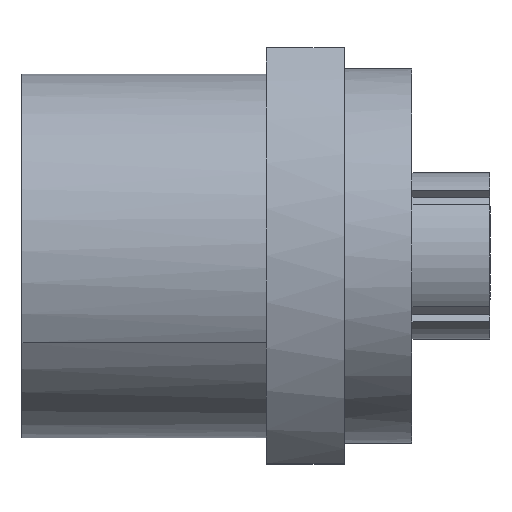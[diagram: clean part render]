
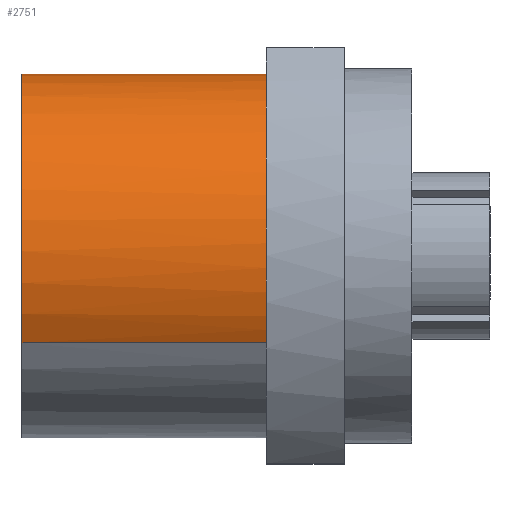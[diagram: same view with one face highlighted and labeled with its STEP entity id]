
A CAD part, top view. The second image highlights one B-rep face of the part: STEP entity #2751.
In plain terms, the highlighted cylindrical face has radius 35 mm (diameter 70 mm), a partial arc.
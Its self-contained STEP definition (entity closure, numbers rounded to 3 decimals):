
#1862=CARTESIAN_POINT('Control Point',(-15.,16.78,-30.715)) ;
#1863=CARTESIAN_POINT('Control Point',(-15.,19.578,-29.187)) ;
#1864=CARTESIAN_POINT('Control Point',(-15.,22.201,-27.34)) ;
#1865=CARTESIAN_POINT('Control Point',(-15.,24.603,-25.201)) ;
#1866=CARTESIAN_POINT('Control Point',(-15.,28.876,-20.413)) ;
#1867=CARTESIAN_POINT('Control Point',(-15.,31.964,-14.788)) ;
#1868=CARTESIAN_POINT('Control Point',(-15.,33.18,-11.81)) ;
#1869=CARTESIAN_POINT('Control Point',(-15.,34.912,-5.631)) ;
#1870=CARTESIAN_POINT('Control Point',(-15.,35.21,0.78)) ;
#1871=CARTESIAN_POINT('Control Point',(-15.,34.992,3.988)) ;
#1872=CARTESIAN_POINT('Control Point',(-15.,33.83,10.299)) ;
#1873=CARTESIAN_POINT('Control Point',(-15.,31.278,16.188)) ;
#1874=CARTESIAN_POINT('Control Point',(-15.,29.671,18.974)) ;
#1875=CARTESIAN_POINT('Control Point',(-15.,25.851,24.13)) ;
#1876=CARTESIAN_POINT('Control Point',(-15.,20.97,28.296)) ;
#1877=CARTESIAN_POINT('Control Point',(-15.,18.301,30.091)) ;
#1878=CARTESIAN_POINT('Control Point',(-15.,12.602,33.041)) ;
#1879=CARTESIAN_POINT('Control Point',(-15.,6.386,34.635)) ;
#1880=CARTESIAN_POINT('Control Point',(-15.,3.2,35.073)) ;
#1881=CARTESIAN_POINT('Control Point',(-15.,-2.888,35.209)) ;
#1882=CARTESIAN_POINT('Control Point',(-15.,-8.858,34.043)) ;
#1883=CARTESIAN_POINT('Control Point',(-15.,-11.615,33.203)) ;
#1884=CARTESIAN_POINT('Control Point',(-15.,-14.268,32.088)) ;
#1885=CARTESIAN_POINT('Control Point',(-15.,-16.78,30.715)) ;
#1886=CARTESIAN_POINT('Vertex',(-15.,16.78,-30.715)) ;
#1888=CARTESIAN_POINT('Vertex',(-15.,-16.78,30.715)) ;
#2721=CARTESIAN_POINT('Axis2P3D Location',(-83.361,0.,0.)) ;
#2726=CARTESIAN_POINT('Line Origine',(-83.361,-16.78,30.715)) ;
#2730=CARTESIAN_POINT('Vertex',(-62.,-16.78,30.715)) ;
#2733=CARTESIAN_POINT('Line Origine',(-83.361,16.78,-30.715)) ;
#2737=CARTESIAN_POINT('Vertex',(-62.,16.78,-30.715)) ;
#2740=CARTESIAN_POINT('Axis2P3D Location',(-62.,0.,0.)) ;
#2722=DIRECTION('Axis2P3D Direction',(1.,0.,0.)) ;
#2723=DIRECTION('Axis2P3D XDirection',(0.,0.479,-0.878)) ;
#2727=DIRECTION('Vector Direction',(1.,0.,0.)) ;
#2734=DIRECTION('Vector Direction',(1.,0.,0.)) ;
#2741=DIRECTION('Axis2P3D Direction',(1.,0.,0.)) ;
#2724=AXIS2_PLACEMENT_3D('Cylinder Axis2P3D',#2721,#2722,#2723) ;
#2742=AXIS2_PLACEMENT_3D('Circle Axis2P3D',#2740,#2741,$) ;
#2746=ORIENTED_EDGE('',*,*,#2732,.F.) ;
#2747=ORIENTED_EDGE('',*,*,#1890,.F.) ;
#2748=ORIENTED_EDGE('',*,*,#2739,.T.) ;
#2749=ORIENTED_EDGE('',*,*,#2744,.T.) ;
#2728=VECTOR('Line Direction',#2727,1.) ;
#2735=VECTOR('Line Direction',#2734,1.) ;
#2751=ADVANCED_FACE('WBK20DFD(H)',(#2750),#2725,.T.) ;
#1861=B_SPLINE_CURVE_WITH_KNOTS('',5,(#1862,#1863,#1864,#1865,#1866,#1867,#1868,#1869,#1870,#1871,#1872,#1873,#1874,#1875,#1876,#1877,#1878,#1879,#1880,#1881,#1882,#1883,#1884,#1885),.UNSPECIFIED.,.F.,.U.,(6,3,3,3,3,3,3,6),(0.,22.543,45.086,67.629,90.172,112.716,135.259,155.5),.UNSPECIFIED.) ;
#2743=CIRCLE('generated circle',#2742,35.) ;
#2725=CYLINDRICAL_SURFACE('generated cylinder',#2724,35.) ;
#1890=EDGE_CURVE('',#1887,#1889,#1861,.T.) ;
#2732=EDGE_CURVE('',#1889,#2731,#2729,.F.) ;
#2739=EDGE_CURVE('',#1887,#2738,#2736,.F.) ;
#2744=EDGE_CURVE('',#2738,#2731,#2743,.T.) ;
#2745=EDGE_LOOP('',(#2746,#2747,#2748,#2749)) ;
#2750=FACE_OUTER_BOUND('',#2745,.T.) ;
#2729=LINE('Line',#2726,#2728) ;
#2736=LINE('Line',#2733,#2735) ;
#1887=VERTEX_POINT('',#1886) ;
#1889=VERTEX_POINT('',#1888) ;
#2731=VERTEX_POINT('',#2730) ;
#2738=VERTEX_POINT('',#2737) ;
